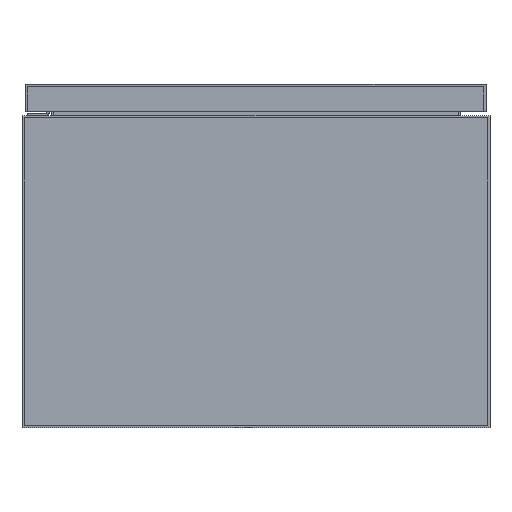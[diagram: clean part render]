
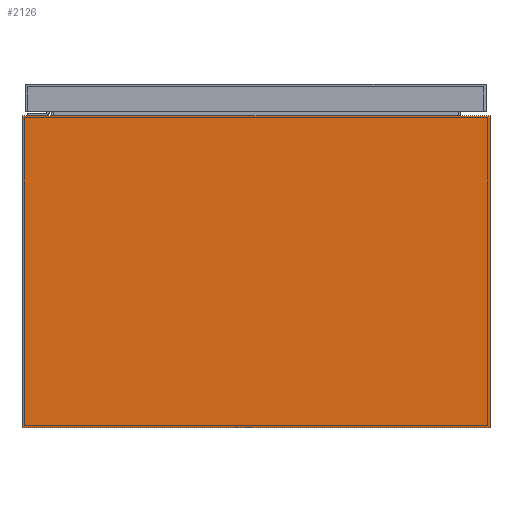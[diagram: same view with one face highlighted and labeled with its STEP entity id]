
A CAD part, front view. The second image highlights one B-rep face of the part: STEP entity #2126.
In plain terms, the highlighted planar face has unit normal (0, -1, 0).
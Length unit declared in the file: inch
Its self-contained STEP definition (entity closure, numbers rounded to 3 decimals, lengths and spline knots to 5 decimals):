
#95=DIRECTION('',(1.,0.,0.));
#96=VECTOR('',#95,12.);
#97=CARTESIAN_POINT('',(-6.,-8.,0.));
#98=LINE('',#97,#96);
#99=DIRECTION('',(0.,0.,-1.));
#100=VECTOR('',#99,8.);
#101=CARTESIAN_POINT('',(-6.,-8.,8.));
#102=LINE('',#101,#100);
#103=DIRECTION('',(0.,0.,1.));
#104=VECTOR('',#103,8.);
#105=CARTESIAN_POINT('',(6.,-8.,0.));
#106=LINE('',#105,#104);
#119=DIRECTION('',(1.,0.,0.));
#120=VECTOR('',#119,12.);
#121=CARTESIAN_POINT('',(-6.,-8.,8.));
#122=LINE('',#121,#120);
#1560=CARTESIAN_POINT('',(-6.,-8.,0.));
#1562=VERTEX_POINT('',#1560);
#1565=CARTESIAN_POINT('',(6.,-8.,0.));
#1566=VERTEX_POINT('',#1565);
#1569=CARTESIAN_POINT('',(-6.,-8.,8.));
#1570=VERTEX_POINT('',#1569);
#1573=CARTESIAN_POINT('',(6.,-8.,8.));
#1574=VERTEX_POINT('',#1573);
#2114=CARTESIAN_POINT('',(0.,-8.,4.));
#2115=DIRECTION('',(0.,1.,0.));
#2116=DIRECTION('',(1.,0.,0.));
#2117=AXIS2_PLACEMENT_3D('',#2114,#2115,#2116);
#2118=PLANE('',#2117);
#2119=ORIENTED_EDGE('',*,*,#2038,.F.);
#2120=ORIENTED_EDGE('',*,*,#2081,.F.);
#2122=ORIENTED_EDGE('',*,*,#2121,.T.);
#2123=ORIENTED_EDGE('',*,*,#2106,.F.);
#2124=EDGE_LOOP('',(#2119,#2120,#2122,#2123));
#2125=FACE_OUTER_BOUND('',#2124,.F.);
#2126=ADVANCED_FACE('',(#2125),#2118,.F.);
#2038=EDGE_CURVE('',#1562,#1566,#98,.T.);
#2081=EDGE_CURVE('',#1570,#1562,#102,.T.);
#2106=EDGE_CURVE('',#1566,#1574,#106,.T.);
#2121=EDGE_CURVE('',#1570,#1574,#122,.T.);
